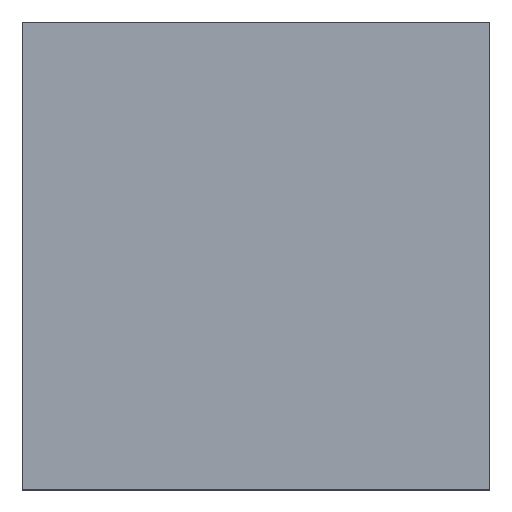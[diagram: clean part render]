
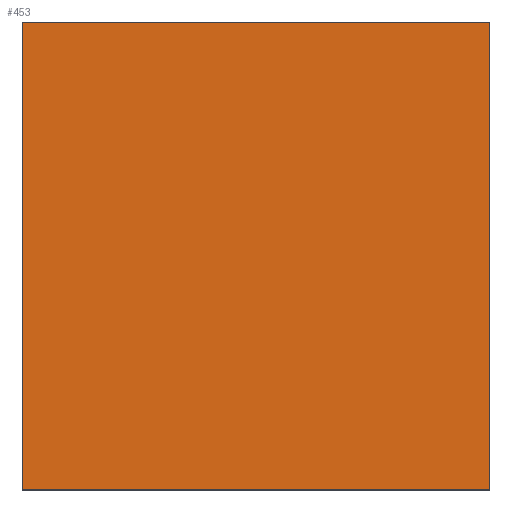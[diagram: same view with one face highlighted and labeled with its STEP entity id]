
A CAD part, top view. The second image highlights one B-rep face of the part: STEP entity #453.
In plain terms, the highlighted planar face has unit normal (0, 0, 1).
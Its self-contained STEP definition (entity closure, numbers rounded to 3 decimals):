
#32=PLANE('',#516);
#57=FACE_OUTER_BOUND('',#89,.T.);
#89=EDGE_LOOP('',(#326,#327,#328,#329));
#122=LINE('',#712,#164);
#123=LINE('',#714,#165);
#124=LINE('',#716,#166);
#125=LINE('',#717,#167);
#164=VECTOR('',#590,10.);
#165=VECTOR('',#591,10.);
#166=VECTOR('',#592,10.);
#167=VECTOR('',#593,10.);
#224=VERTEX_POINT('',#710);
#225=VERTEX_POINT('',#711);
#226=VERTEX_POINT('',#713);
#227=VERTEX_POINT('',#715);
#263=EDGE_CURVE('',#224,#225,#122,.T.);
#264=EDGE_CURVE('',#225,#226,#123,.T.);
#265=EDGE_CURVE('',#226,#227,#124,.T.);
#266=EDGE_CURVE('',#227,#224,#125,.T.);
#326=ORIENTED_EDGE('',*,*,#263,.T.);
#327=ORIENTED_EDGE('',*,*,#264,.T.);
#328=ORIENTED_EDGE('',*,*,#265,.T.);
#329=ORIENTED_EDGE('',*,*,#266,.T.);
#453=ADVANCED_FACE('',(#57),#32,.T.);
#516=AXIS2_PLACEMENT_3D('',#709,#588,#589);
#588=DIRECTION('center_axis',(0.,0.,1.));
#589=DIRECTION('ref_axis',(1.,0.,0.));
#590=DIRECTION('',(0.,1.,0.));
#591=DIRECTION('',(-1.,0.,0.));
#592=DIRECTION('',(0.,-1.,0.));
#593=DIRECTION('',(1.,0.,0.));
#709=CARTESIAN_POINT('Origin',(0.,0.,100.));
#710=CARTESIAN_POINT('',(125.,-125.,100.));
#711=CARTESIAN_POINT('',(125.,125.,100.));
#712=CARTESIAN_POINT('',(125.,-125.,100.));
#713=CARTESIAN_POINT('',(-125.,125.,100.));
#714=CARTESIAN_POINT('',(125.,125.,100.));
#715=CARTESIAN_POINT('',(-125.,-125.,100.));
#716=CARTESIAN_POINT('',(-125.,125.,100.));
#717=CARTESIAN_POINT('',(-125.,-125.,100.));
